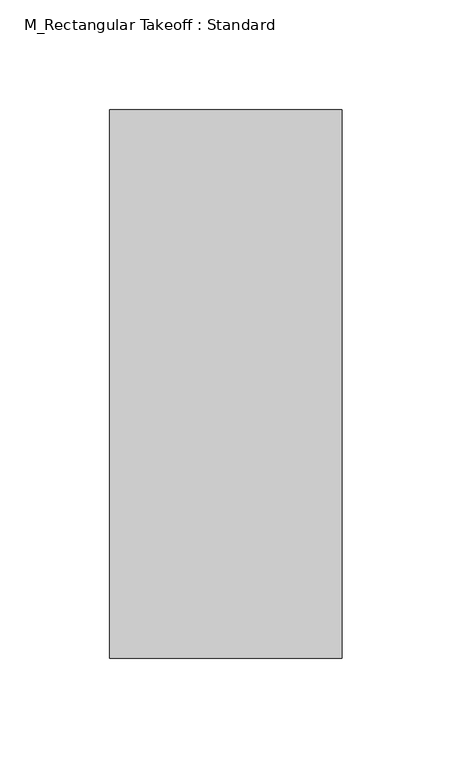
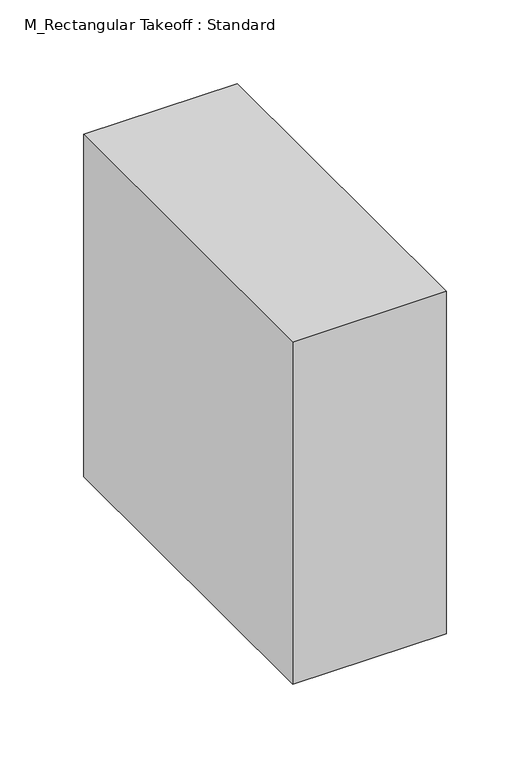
"""IFC4 building model written with IfcOpenShell, lengths in millimetres: duct fitting geometry, M_Rectangular Takeoff : Standard."""

import ifcopenshell
import ifcopenshell.guid

model = None  # the IFC model being written
_history = None  # IfcOwnerHistory: only IFC2X3 demands one
_inside = {}  # id of a spatial element -> (the spatial element, [elements in it])
_under = {}  # id of a project, library or spatial element -> (it, [spatial elements below it])
_declared = {}  # id of a project -> (the project, [libraries it declares])
_typed = {}  # id of a type object -> (the type object, [elements of that type])
_made_of = {}  # id of a material, layer set ... -> (it, [elements and type objects made of it])


def new_model(schema):
    """Start an empty IFC model of exactly this schema.

    Asked for "IFC4X3", IfcOpenShell would pick the latest addendum, in which some entities
    have other attributes; the version numbers below select the first issue.
    IFC2X3 requires an IfcOwnerHistory on every rooted entity: one is made here for all.
    """
    global model, _history
    if schema == "IFC4X3":
        model = ifcopenshell.file(schema_version=(4, 3, 0, 0))
    else:
        model = ifcopenshell.file(schema=schema)
    _inside.clear()
    _under.clear()
    _declared.clear()
    _typed.clear()
    _made_of.clear()
    _history = None
    if model.schema == "IFC2X3":
        org = make("IfcOrganization", Name="unknown")
        user = make(
            "IfcPersonAndOrganization",
            ThePerson=make("IfcPerson", FamilyName="unknown"),
            TheOrganization=org,
        )
        app = make(
            "IfcApplication",
            ApplicationDeveloper=org,
            Version="unknown",
            ApplicationFullName="unknown",
            ApplicationIdentifier="unknown",
        )
        _history = make(
            "IfcOwnerHistory",
            OwningUser=user,
            OwningApplication=app,
            ChangeAction="ADDED",
            CreationDate=0,
        )
    return model


def make(cls, **values):
    """One entity of the class cls with the attributes given. An attribute that is None is left unset."""
    return model.create_entity(
        cls, **{name: value for name, value in values.items() if value is not None}
    )


def rooted(cls, **values):
    """An entity with a GlobalId (a new one), such as an element, a storey or a relation."""
    return make(cls, GlobalId=ifcopenshell.guid.new(), OwnerHistory=_history, **values)


def si_unit(unit_type, name, prefix=None):
    """IfcSIUnit, for example si_unit("LENGTHUNIT", "METRE", prefix="MILLI")."""
    return make("IfcSIUnit", UnitType=unit_type, Prefix=prefix, Name=name)


def assignment(units):
    """IfcUnitAssignment: the units of a project."""
    return None if units is None else make("IfcUnitAssignment", Units=units)


def point(xyz):
    """IfcCartesianPoint."""
    return None if xyz is None else make("IfcCartesianPoint", Coordinates=xyz)


def direction(xyz):
    """IfcDirection."""
    return None if xyz is None else make("IfcDirection", DirectionRatios=xyz)


def frame(location, z_axis=None, x_axis=None):
    """IfcAxis2Placement3D, a coordinate frame: its origin and axes. An axis left out is left unset."""
    return make(
        "IfcAxis2Placement3D",
        Location=point(location),
        Axis=direction(z_axis),
        RefDirection=direction(x_axis),
    )


def origin():
    """The frame at (0, 0, 0) with its axes left unset."""
    return frame((0.0, 0.0, 0.0))


def place(relative_to, where):
    """IfcLocalPlacement: puts the frame where relative to a parent placement (None: the world)."""
    return make(
        "IfcLocalPlacement", PlacementRelTo=relative_to, RelativePlacement=where
    )


def context(
    kind, dimensions, precision=None, world=None, true_north=None, identifier=None
):
    """IfcGeometricRepresentationContext, for example the 3D "Model" context."""
    return make(
        "IfcGeometricRepresentationContext",
        ContextIdentifier=identifier,
        ContextType=kind,
        CoordinateSpaceDimension=dimensions,
        Precision=precision,
        WorldCoordinateSystem=world,
        TrueNorth=true_north,
    )


def project(units=None, contexts=None):
    """IfcProject with its units and contexts."""
    return rooted(
        "IfcProject",
        Name="project",
        RepresentationContexts=contexts,
        UnitsInContext=assignment(units),
    )


def spatial(cls, under=None, at=None, **own):
    """A site, building, storey or space (cls), placed at a placement, below another one or the project."""
    s = rooted(cls, ObjectPlacement=at, **own)
    if under is not None:
        _under.setdefault(under.id(), (under, []))[1].append(s)
    return s


def polyline(points):
    """IfcPolyline through the points."""
    return make("IfcPolyline", Points=[point(p) for p in points])


def outline(outer, holes=None, kind="AREA"):
    """IfcArbitraryClosedProfileDef: a profile drawn as a closed curve; with holes, ...WithVoids."""
    if holes is None:
        return make("IfcArbitraryClosedProfileDef", ProfileType=kind, OuterCurve=outer)
    return make(
        "IfcArbitraryProfileDefWithVoids",
        ProfileType=kind,
        OuterCurve=outer,
        InnerCurves=holes,
    )


def extrude(swept, where, along, depth):
    """IfcExtrudedAreaSolid: the profile swept, set in the frame where, extruded along a direction by depth."""
    return make(
        "IfcExtrudedAreaSolid",
        SweptArea=swept,
        Position=where,
        ExtrudedDirection=direction(along),
        Depth=depth,
    )


def shape(context_of_items, identifier, shape_type, items):
    """IfcShapeRepresentation: the items that make up one representation, for example the "Body"."""
    return make(
        "IfcShapeRepresentation",
        ContextOfItems=context_of_items,
        RepresentationIdentifier=identifier,
        RepresentationType=shape_type,
        Items=items,
    )


def source(mapping_origin, context_of_items, identifier, shape_type, items):
    """IfcRepresentationMap: a shape defined once, which mapped items show again and again."""
    return make(
        "IfcRepresentationMap",
        MappingOrigin=mapping_origin,
        MappedRepresentation=shape(context_of_items, identifier, shape_type, items),
    )


def transform(
    local_origin,
    x_axis=None,
    y_axis=None,
    z_axis=None,
    scale=None,
    scale2=None,
    scale3=None,
    uniform=True,
):
    """IfcCartesianTransformationOperator3D, or its non-uniform kind. x_axis, y_axis, z_axis: its Axis1, 2, 3."""
    if uniform:
        return make(
            "IfcCartesianTransformationOperator3D",
            Axis1=direction(x_axis),
            Axis2=direction(y_axis),
            LocalOrigin=point(local_origin),
            Scale=scale,
            Axis3=direction(z_axis),
        )
    return make(
        "IfcCartesianTransformationOperator3DnonUniform",
        Axis1=direction(x_axis),
        Axis2=direction(y_axis),
        LocalOrigin=point(local_origin),
        Scale=scale,
        Axis3=direction(z_axis),
        Scale2=scale2,
        Scale3=scale3,
    )


def mapped(mapping_source, mapping_target):
    """IfcMappedItem: shows the shape of a source again, moved by a transform."""
    return make(
        "IfcMappedItem", MappingSource=mapping_source, MappingTarget=mapping_target
    )


def made_of(thing, what):
    """Note that an element or type object is made of a material, layer set ...; save() writes the relation."""
    if what is not None:
        _made_of.setdefault(what.id(), (what, []))[1].append(thing)
    return thing


def element(
    cls,
    number,
    at=None,
    inside=None,
    cuts=None,
    type_object=None,
    material=None,
    context=None,
    identifier="Body",
    shape_type=None,
    held_by="IfcProductDefinitionShape",
    body=None,
    shapes=None,
    **own,
):
    """One element of the class cls, such as IfcWall. Its Tag is "e" and its number.

    at: its placement. inside: the storey or other place that contains it. cuts: it is an
    opening in that element (IfcRelVoidsElement). A single representation is given by context,
    identifier, shape_type and body (its items); several are given by shapes. held_by: the class
    of the entity that holds the representations. save() writes the other relations.
    """
    e = rooted(cls, Tag="e%d" % number, ObjectPlacement=at, **own)
    if body is not None:
        shapes = [shape(context, identifier, shape_type, body)]
    if shapes is not None:
        e.Representation = make(held_by, Representations=shapes)
    if inside is not None:
        _inside.setdefault(inside.id(), (inside, []))[1].append(e)
    if cuts is not None:
        rooted(
            "IfcRelVoidsElement", RelatingBuildingElement=cuts, RelatedOpeningElement=e
        )
    if type_object is not None:
        _typed.setdefault(type_object.id(), (type_object, []))[1].append(e)
    return made_of(e, material)


def aggregate(whole, parts):
    """IfcRelAggregates: a whole, such as a stair, and the parts it consists of."""
    return rooted("IfcRelAggregates", RelatingObject=whole, RelatedObjects=parts)


def save(model, path):
    """Write the relations noted so far, then the file.

    IfcRelAggregates (storeys below a building ...), IfcRelContainedInSpatialStructure (elements
    in a storey), IfcRelDefinesByType, IfcRelAssociatesMaterial and IfcRelDeclares: one each for
    every whole, place, type object, material and project.
    """
    for whole, parts in _under.values():
        aggregate(whole, parts)
    for where, things in _inside.values():
        rooted(
            "IfcRelContainedInSpatialStructure",
            RelatedElements=things,
            RelatingStructure=where,
        )
    for kind, things in _typed.values():
        rooted("IfcRelDefinesByType", RelatedObjects=things, RelatingType=kind)
    for what, things in _made_of.values():
        rooted("IfcRelAssociatesMaterial", RelatedObjects=things, RelatingMaterial=what)
    for by, libraries in _declared.values():
        rooted("IfcRelDeclares", RelatingContext=by, RelatedDefinitions=libraries)
    model.write(path)


def m_rectangular_takeoff_standard_1c934564(model_context):
    return source(origin(), model_context, "Body", "SweptSolid", [
        extrude(outline(polyline([(-6.096, -125.0), (-6.096, 125.0), (100.0, 125.0), (100.0, -125.0), (-6.096, -125.0)])), frame((0.0, 0.0, -125.0), z_axis=(0.0, 0.0, 1.0), x_axis=(1.0, 0.0, 0.0)), (0.0, 0.0, 1.0), 250.0),
        extrude(outline(polyline([(-6.096, -125.0), (-6.096, 125.0), (100.0, 125.0), (100.0, -125.0), (-6.096, -125.0)])), frame((0.0, 0.0, -125.0), z_axis=(0.0, 0.0, 1.0), x_axis=(1.0, 0.0, 0.0)), (0.0, 0.0, 1.0), 250.0),
        extrude(outline(polyline([(-6.096, -125.0), (-6.096, 125.0), (100.0, 125.0), (100.0, -125.0), (-6.096, -125.0)])), frame((0.0, 0.0, -125.0), z_axis=(0.0, 0.0, 1.0), x_axis=(1.0, 0.0, 0.0)), (0.0, 0.0, 1.0), 250.0),
    ])


if __name__ == "__main__":
    model = new_model("IFC4")
    model_context = context("Model", 3, world=origin())
    ifc_project = project(units=[si_unit("LENGTHUNIT", "METRE", prefix="MILLI")], contexts=[model_context])
    site = spatial("IfcSite", under=ifc_project)
    building = spatial("IfcBuilding", under=site)
    placement = place(None, origin())
    m_rectangular_takeoff_standard_shape = m_rectangular_takeoff_standard_1c934564(model_context)
    element("IfcDuctFitting", 1, ObjectType="M_Rectangular Takeoff : Standard", at=placement, inside=building, context=model_context, shape_type="MappedRepresentation", body=[
        mapped(m_rectangular_takeoff_standard_shape, transform((0.0, 0.0, 0.0), x_axis=(1.0, 0.0, 0.0), y_axis=(0.0, 1.0, 0.0), z_axis=(0.0, 0.0, 1.0))),
    ])
    save(model, "model.ifc")
